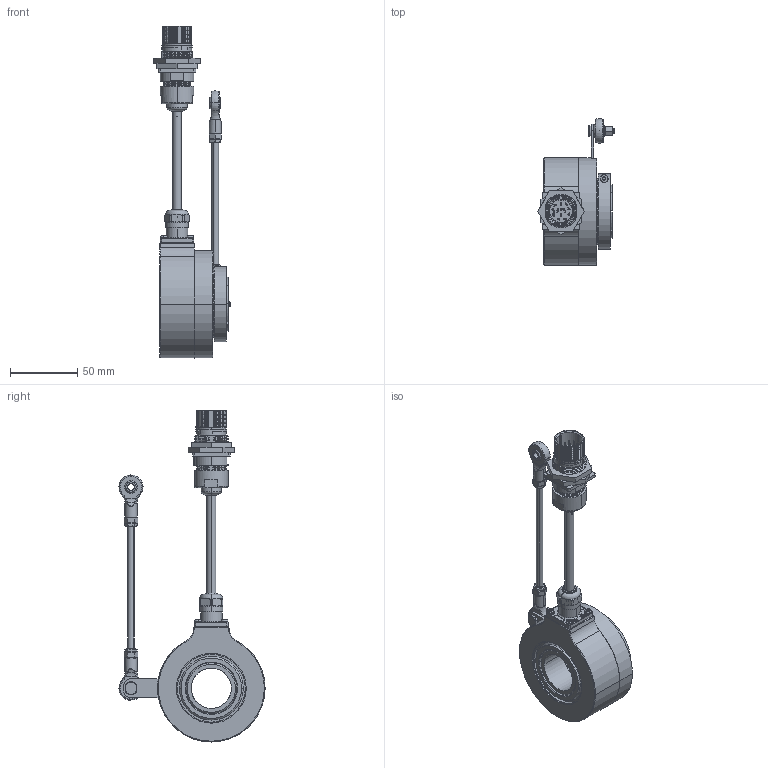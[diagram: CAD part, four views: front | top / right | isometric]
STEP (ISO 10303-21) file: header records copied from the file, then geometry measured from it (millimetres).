
FILE_DESCRIPTION (( 'STEP AP203' ), '1' );
FILE_NAME ('K80I.OXX.XXXXX.XH27830.6XR14.XXXX.step', '2025-12-09T12:51:40', ( '' ), ( '' ), 'SwSTEP 2.0', 'SolidWorks 2021', '' );
FILE_SCHEMA (( 'CONFIG_CONTROL_DESIGN' ));
Length unit declared in the file: millimetre
Products named in the file (1): K80I.OXX.XXXXX.XH27830.6XR14.XXXX
Bounding box: 56.92 x 108.97 x 247.43 mm (x, y, z)
Volume: 230383.2 mm3; surface area: 102527.6 mm2
Topology: 41 solids, 41 shells, 2255 faces, 5757 edges, 3655 vertices
Faces by surface type: cylinder 759, plane 716, cone 442, bspline 176, torus 106, sphere 56
Entity records: 77039 total; most frequent: CARTESIAN_POINT 23906, ORIENTED_EDGE 11390, DIRECTION 10832, EDGE_CURVE 5695, AXIS2_PLACEMENT_3D 4269, VERTEX_POINT 3651, EDGE_LOOP 2454, LINE 2294
